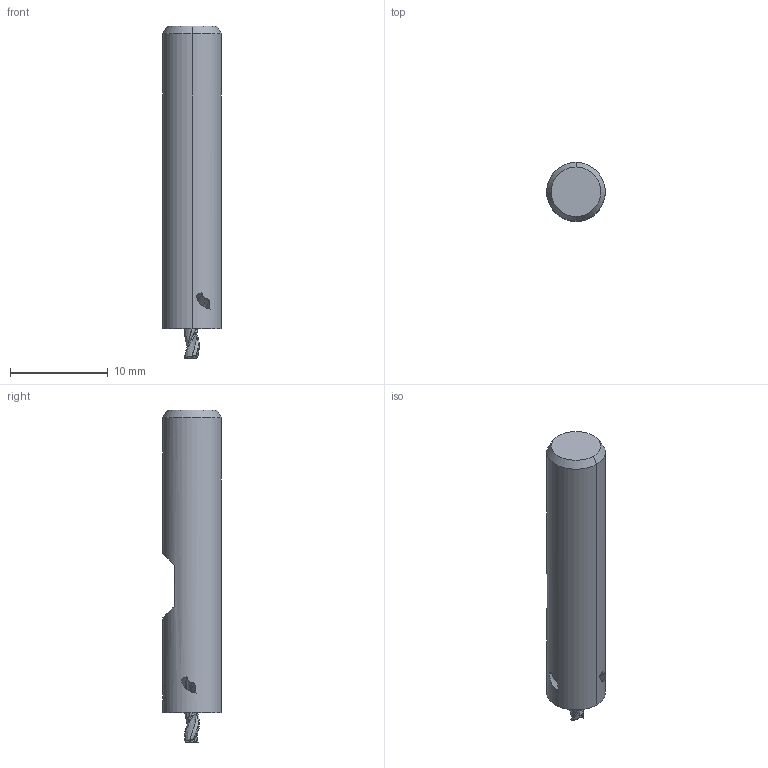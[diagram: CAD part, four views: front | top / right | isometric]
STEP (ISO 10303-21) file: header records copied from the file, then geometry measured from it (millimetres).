
FILE_DESCRIPTION(('no description'),'unknown implementation level');
FILE_NAME('solid3IuRObNtu2EWP_CIP3rzfTaXS8c_1.STP',' ',('CIMSOURCE GmbH'),('CADClick - KiM GmbH - www.kimweb.de'),'unknown preprocess','ACIS','unknown authorization');
FILE_SCHEMA(('automotive_design'));
Length unit declared in the file: millimetre
Products named in the file (2): NOCUT; CUT
Bounding box: 6 x 6 x 34 mm (x, y, z)
Volume: 843.2 mm3; surface area: 691.6 mm2
Topology: 2 solids, 2 shells, 73 faces, 202 edges, 133 vertices
Faces by surface type: plane 26, revolution 18, bspline 12, cylinder 10, cone 7
Entity records: 6802 total; most frequent: CARTESIAN_POINT 2784, STYLED_ITEM 410, PRESENTATION_STYLE_ASSIGNMENT 410, COLOUR_RGB 410, ORIENTED_EDGE 404, DIRECTION 280, EDGE_CURVE 202, CURVE_STYLE 202
